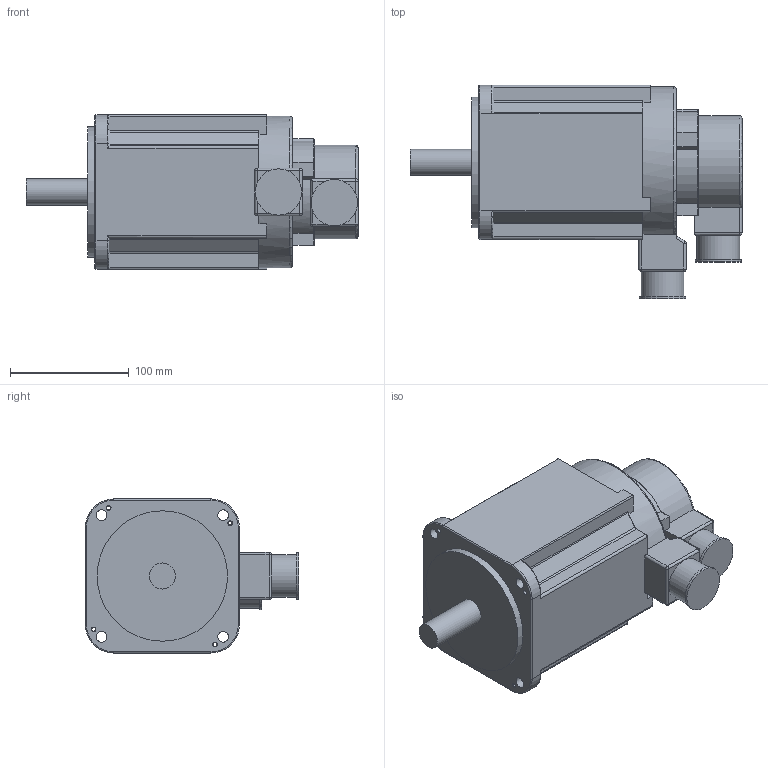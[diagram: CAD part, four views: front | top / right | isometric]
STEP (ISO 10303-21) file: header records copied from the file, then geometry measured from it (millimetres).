
FILE_DESCRIPTION(/* description */ (''),/* implementation_level */ '2;1');
FILE_NAME(/* name */ '130GSL15015.stp',/* time_stamp */ '2019-11-22T13:54:18+08:00',/* author */ (''),/* organization */ (''),/* preprocessor_version */ 'ST-DEVELOPER v16',/* originating_system */ 'SIEMENS PLM Software NX 10.0',/* authorisation */ '');
FILE_SCHEMA (('CONFIG_CONTROL_DESIGN'));
Length unit declared in the file: millimetre
Products named in the file (1): 130GSL15015
Bounding box: 280 x 180 x 130 mm (x, y, z)
Volume: 2915973.9 mm3; surface area: 147479 mm2
Topology: 1 solids, 1 shells, 248 faces, 604 edges, 345 vertices
Faces by surface type: cylinder 109, plane 75, torus 33, sphere 15, cone 8, bspline 8
Full cylindrical faces by diameter (mm): 3.3 x4, 9 x4, 22 x1, 36 x2, 39 x2, 110 x1
Entity records: 7600 total; most frequent: CARTESIAN_POINT 1850, DIRECTION 1255, ORIENTED_EDGE 1120, EDGE_CURVE 560, AXIS2_PLACEMENT_3D 499, VERTEX_POINT 341, EDGE_LOOP 291, LINE 257
